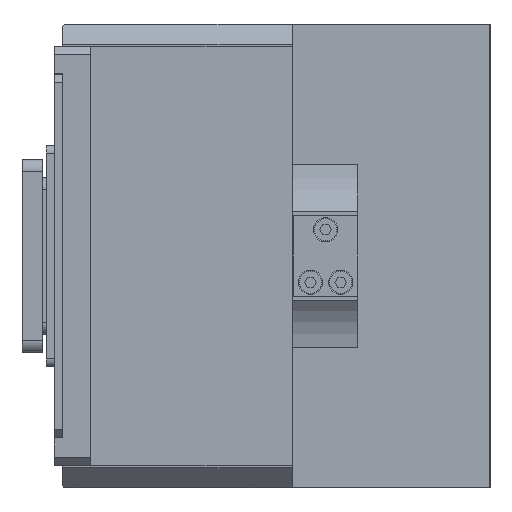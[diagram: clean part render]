
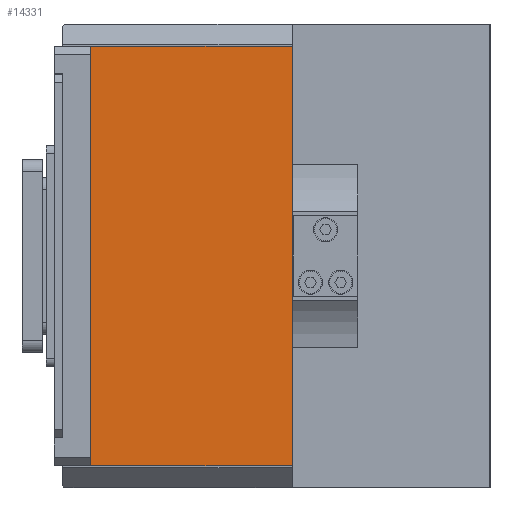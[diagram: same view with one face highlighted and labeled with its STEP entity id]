
A CAD part, left-side view. The second image highlights one B-rep face of the part: STEP entity #14331.
In plain terms, the highlighted planar face has unit normal (-1, 0, 0) as drawn and (0, 0, 1) by its records, which use the part's own axes.
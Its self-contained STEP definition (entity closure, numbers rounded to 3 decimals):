
#683 = CARTESIAN_POINT ( 'NONE',  ( 52., 21.5, 20. ) ) ;
#704 = ORIENTED_EDGE ( 'NONE', *, *, #5179, .F. ) ;
#748 = EDGE_CURVE ( 'NONE', #16670, #18940, #3578, .T. ) ;
#1075 = EDGE_CURVE ( 'NONE', #16012, #16670, #19126, .T. ) ;
#1488 = DIRECTION ( 'NONE',  ( 0., -1., 0. ) ) ;
#1567 = CARTESIAN_POINT ( 'NONE',  ( 148., 21.5, 20. ) ) ;
#1917 = ORIENTED_EDGE ( 'NONE', *, *, #3462, .F. ) ;
#2353 = VECTOR ( 'NONE', #5593, 1000. ) ;
#3462 = EDGE_CURVE ( 'NONE', #18940, #13942, #5560, .T. ) ;
#3578 = LINE ( 'NONE', #5723, #2353 ) ;
#4084 = DIRECTION ( 'NONE',  ( 0., 1., 0. ) ) ;
#4508 = FACE_OUTER_BOUND ( 'NONE', #21458, .T. ) ;
#5179 = EDGE_CURVE ( 'NONE', #13942, #16012, #11354, .T. ) ;
#5560 = LINE ( 'NONE', #6248, #6470 ) ;
#5593 = DIRECTION ( 'NONE',  ( -1., 0., 0. ) ) ;
#5723 = CARTESIAN_POINT ( 'NONE',  ( 148., -28.5, 20. ) ) ;
#6248 = CARTESIAN_POINT ( 'NONE',  ( -52., -28.5, 20. ) ) ;
#6470 = VECTOR ( 'NONE', #4084, 1000. ) ;
#6709 = AXIS2_PLACEMENT_3D ( 'NONE', #7085, #19875, #8920 ) ;
#7085 = CARTESIAN_POINT ( 'NONE',  ( 148., -28.5, 20. ) ) ;
#8920 = DIRECTION ( 'NONE',  ( -1., 0., 0. ) ) ;
#10904 = CARTESIAN_POINT ( 'NONE',  ( 52., -28.5, 20. ) ) ;
#11354 = LINE ( 'NONE', #1567, #20489 ) ;
#12590 = ORIENTED_EDGE ( 'NONE', *, *, #748, .F. ) ;
#13745 = CARTESIAN_POINT ( 'NONE',  ( -52., -28.5, 20. ) ) ;
#13806 = ORIENTED_EDGE ( 'NONE', *, *, #1075, .F. ) ;
#13942 = VERTEX_POINT ( 'NONE', #18497 ) ;
#14331 = ADVANCED_FACE ( 'NONE', ( #4508 ), #23605, .F. ) ;
#16012 = VERTEX_POINT ( 'NONE', #683 ) ;
#16670 = VERTEX_POINT ( 'NONE', #19339 ) ;
#18497 = CARTESIAN_POINT ( 'NONE',  ( -52., 21.5, 20. ) ) ;
#18940 = VERTEX_POINT ( 'NONE', #13745 ) ;
#19126 = LINE ( 'NONE', #10904, #19821 ) ;
#19339 = CARTESIAN_POINT ( 'NONE',  ( 52., -28.5, 20. ) ) ;
#19821 = VECTOR ( 'NONE', #1488, 1000. ) ;
#19875 = DIRECTION ( 'NONE',  ( 0., 0., -1. ) ) ;
#20489 = VECTOR ( 'NONE', #23693, 1000. ) ;
#21458 = EDGE_LOOP ( 'NONE', ( #1917, #12590, #13806, #704 ) ) ;
#23605 = PLANE ( 'NONE',  #6709 ) ;
#23693 = DIRECTION ( 'NONE',  ( 1., 0., 0. ) ) ;
